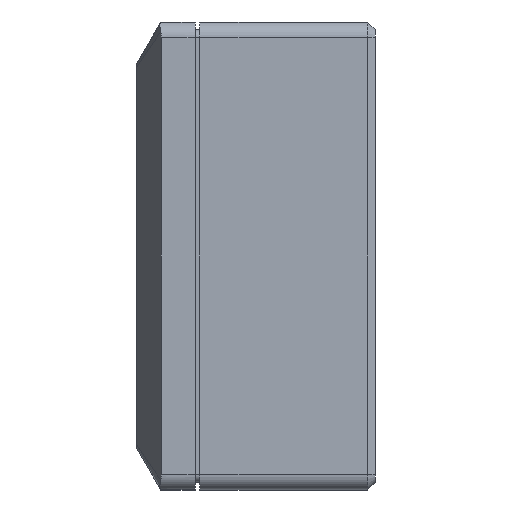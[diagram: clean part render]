
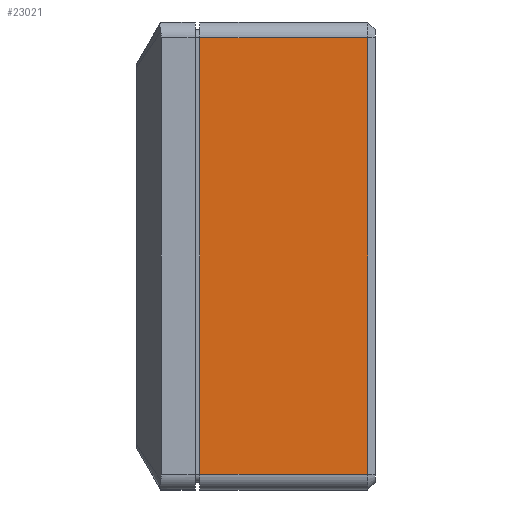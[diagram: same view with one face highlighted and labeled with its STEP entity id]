
A CAD part, left-side view. The second image highlights one B-rep face of the part: STEP entity #23021.
In plain terms, the highlighted planar face has unit normal (-1, 0, 0).
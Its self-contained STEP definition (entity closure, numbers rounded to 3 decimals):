
#546 = FACE_OUTER_BOUND ( 'NONE', #6308, .T. ) ;
#1094 = CARTESIAN_POINT ( 'NONE',  ( -65.5, 22.5, -28. ) ) ;
#1296 = VERTEX_POINT ( 'NONE', #5200 ) ;
#2548 = LINE ( 'NONE', #8840, #16239 ) ;
#2951 = PLANE ( 'NONE',  #14177 ) ;
#3036 = DIRECTION ( 'NONE',  ( 1., 0., 0. ) ) ;
#4061 = VECTOR ( 'NONE', #7836, 1000. ) ;
#4472 = CARTESIAN_POINT ( 'NONE',  ( -65.5, 22.5, 28. ) ) ;
#4633 = LINE ( 'NONE', #18533, #4061 ) ;
#5200 = CARTESIAN_POINT ( 'NONE',  ( -65.5, 1., 28. ) ) ;
#5724 = VECTOR ( 'NONE', #21305, 1000. ) ;
#5754 = ORIENTED_EDGE ( 'NONE', *, *, #11072, .T. ) ;
#5971 = EDGE_CURVE ( 'NONE', #11152, #11610, #10456, .T. ) ;
#6308 = EDGE_LOOP ( 'NONE', ( #11575, #18327, #5754, #16756 ) ) ;
#6767 = VECTOR ( 'NONE', #18733, 1000. ) ;
#7635 = VERTEX_POINT ( 'NONE', #4472 ) ;
#7836 = DIRECTION ( 'NONE',  ( 0., 0., 1. ) ) ;
#8531 = EDGE_CURVE ( 'NONE', #11610, #1296, #2548, .T. ) ;
#8840 = CARTESIAN_POINT ( 'NONE',  ( -65.5, 1., -30. ) ) ;
#10456 = LINE ( 'NONE', #19524, #5724 ) ;
#11072 = EDGE_CURVE ( 'NONE', #1296, #7635, #11489, .T. ) ;
#11152 = VERTEX_POINT ( 'NONE', #1094 ) ;
#11489 = LINE ( 'NONE', #11611, #6767 ) ;
#11575 = ORIENTED_EDGE ( 'NONE', *, *, #5971, .T. ) ;
#11610 = VERTEX_POINT ( 'NONE', #18631 ) ;
#11611 = CARTESIAN_POINT ( 'NONE',  ( -65.5, 22.5, 28. ) ) ;
#13709 = CARTESIAN_POINT ( 'NONE',  ( -65.5, 22.5, -30. ) ) ;
#14177 = AXIS2_PLACEMENT_3D ( 'NONE', #13709, #3036, #15535 ) ;
#15535 = DIRECTION ( 'NONE',  ( 0., 0., -1. ) ) ;
#16239 = VECTOR ( 'NONE', #19469, 1000. ) ;
#16756 = ORIENTED_EDGE ( 'NONE', *, *, #20917, .F. ) ;
#18327 = ORIENTED_EDGE ( 'NONE', *, *, #8531, .T. ) ;
#18533 = CARTESIAN_POINT ( 'NONE',  ( -65.5, 22.5, -30. ) ) ;
#18631 = CARTESIAN_POINT ( 'NONE',  ( -65.5, 1., -28. ) ) ;
#18733 = DIRECTION ( 'NONE',  ( 0., 1., 0. ) ) ;
#19469 = DIRECTION ( 'NONE',  ( 0., 0., 1. ) ) ;
#19524 = CARTESIAN_POINT ( 'NONE',  ( -65.5, 22.5, -28. ) ) ;
#20917 = EDGE_CURVE ( 'NONE', #11152, #7635, #4633, .T. ) ;
#21305 = DIRECTION ( 'NONE',  ( 0., -1., 0. ) ) ;
#23021 = ADVANCED_FACE ( 'NONE', ( #546 ), #2951, .F. ) ;
